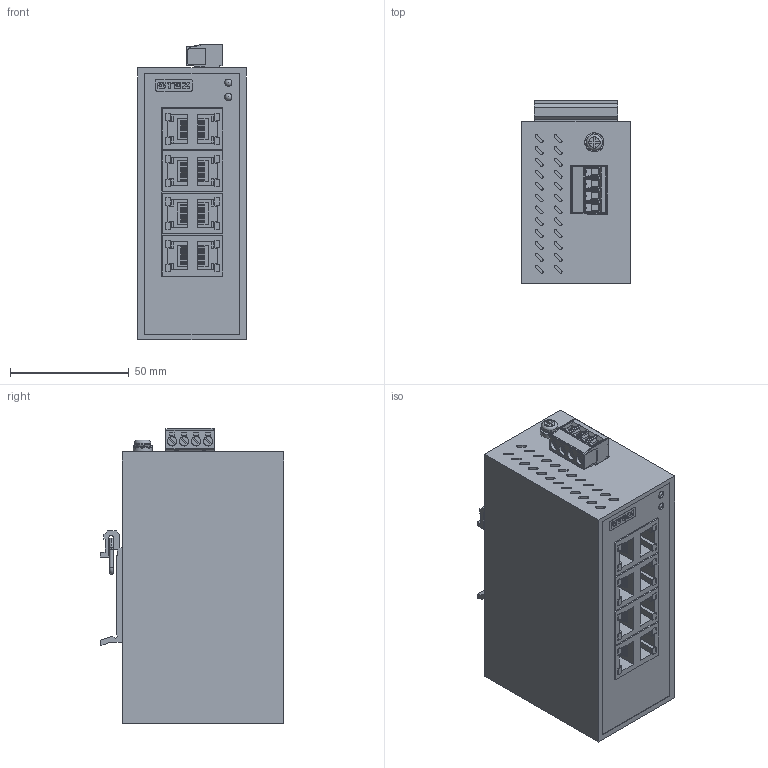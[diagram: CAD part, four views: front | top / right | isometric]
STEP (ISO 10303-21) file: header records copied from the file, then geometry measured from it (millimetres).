
FILE_DESCRIPTION(('TFLEX Exchange Step'),'2;1');
FILE_NAME('70310008_STEZ1008.stp', '2025-08-26T13:41:04+03:00',('YLedovskikh'),('Unknown organisation'),'TFLEX Exchange 2023.2','T-FLEX CAD','Unknown authorisation');
FILE_SCHEMA( ('AUTOMOTIVE_DESIGN { 1 0 10303 214 1 1 1 1 }') );
Length unit declared in the file: millimetre
Products named in the file (1): 70310008_STEZ1008:1
Bounding box: 45.6 x 77.4 x 124.5 mm (x, y, z)
Volume: 350817.8 mm3; surface area: 56304.5 mm2
Topology: 3 solids, 16 shells, 1855 faces, 5204 edges, 3471 vertices
Faces by surface type: plane 1244, cylinder 401, bspline 160, cone 17, extrusion 16, torus 9, sphere 8
Full cylindrical faces by diameter (mm): 1.5 x4, 3 x6, 3.821 x4, 4 x5, 4.4 x1, 6 x1, 6.8 x1, 7.9 x1
Entity records: 61909 total; most frequent: CARTESIAN_POINT 13692, ORIENTED_EDGE 10388, DIRECTION 9044, EDGE_CURVE 5194, VECTOR 3762, LINE 3746, VERTEX_POINT 3467, AXIS2_PLACEMENT_3D 2641
